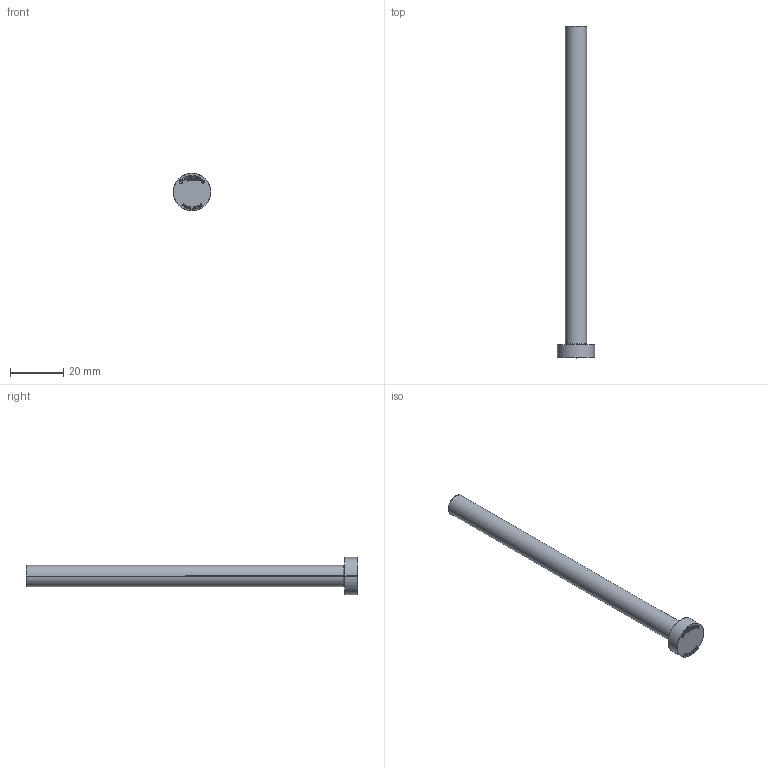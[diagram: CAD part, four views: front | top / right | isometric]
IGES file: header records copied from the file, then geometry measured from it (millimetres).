
Start section: SolidWorks IGES file using analytic representation for surfaces
Global section: file name: C:\Users\User\Downloads\Matripeça 31-08 tar\PB - PINO EXTRATOR TIPO _B_ (CATÁLOGO)\PB08,0\PB08,0125.IGS; native system: SolidWorks 2024; preprocessor: SolidWorks 2024; author: User; date: 260901.145305; units: millimetre
Bounding box: 14 x 125 x 14 mm (x, y, z)
Surface area: 3549.5 mm2 (no closed solid volume)
Topology: 0 solids, 0 shells, 407 faces, 3946 edges, 3946 vertices
Faces by surface type: bspline 393, revolution 14
